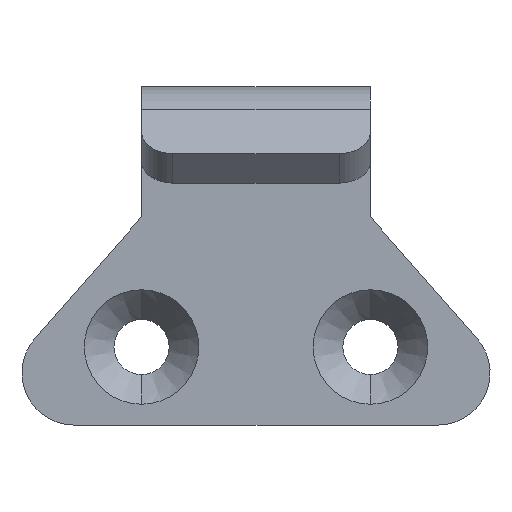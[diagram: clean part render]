
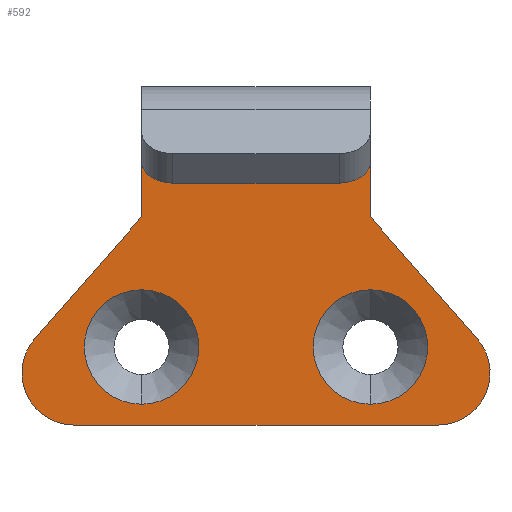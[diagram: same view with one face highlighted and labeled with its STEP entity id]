
A CAD part, top view. The second image highlights one B-rep face of the part: STEP entity #592.
In plain terms, the highlighted planar face has unit normal (0, 0, 1) as drawn and (0, 1, 0) by its records, which use the part's own axes.
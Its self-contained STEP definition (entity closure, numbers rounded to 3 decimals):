
#1 = CARTESIAN_POINT ( 'NONE',  ( 11.5, 0., -25. ) ) ;
#10 = DIRECTION ( 'NONE',  ( -1., 0., 0. ) ) ;
#17 = VERTEX_POINT ( 'NONE', #504 ) ;
#18 = CARTESIAN_POINT ( 'NONE',  ( 33.5, 0., -7.5 ) ) ;
#22 = CARTESIAN_POINT ( 'NONE',  ( 28.535, 0., -39.433 ) ) ;
#24 = PLANE ( 'NONE',  #62 ) ;
#29 = CARTESIAN_POINT ( 'NONE',  ( 11.5, 0., -25. ) ) ;
#39 = VERTEX_POINT ( 'NONE', #138 ) ;
#49 = FACE_BOUND ( 'NONE', #202, .T. ) ;
#60 = EDGE_CURVE ( 'NONE', #129, #39, #89, .T. ) ;
#62 = AXIS2_PLACEMENT_3D ( 'NONE', #586, #705, #93 ) ;
#66 = VERTEX_POINT ( 'NONE', #29 ) ;
#79 = EDGE_CURVE ( 'NONE', #39, #452, #155, .T. ) ;
#80 = AXIS2_PLACEMENT_3D ( 'NONE', #610, #170, #367 ) ;
#81 = EDGE_CURVE ( 'NONE', #452, #277, #382, .T. ) ;
#89 = LINE ( 'NONE', #289, #585 ) ;
#93 = DIRECTION ( 'NONE',  ( 0., 0., -1. ) ) ;
#96 = LINE ( 'NONE', #380, #740 ) ;
#101 = EDGE_CURVE ( 'NONE', #663, #254, #701, .T. ) ;
#103 = DIRECTION ( 'NONE',  ( 0., 0., 1. ) ) ;
#118 = AXIS2_PLACEMENT_3D ( 'NONE', #278, #652, #210 ) ;
#123 = VERTEX_POINT ( 'NONE', #647 ) ;
#129 = VERTEX_POINT ( 'NONE', #515 ) ;
#138 = CARTESIAN_POINT ( 'NONE',  ( 33.5, 0., -20. ) ) ;
#145 = DIRECTION ( 'NONE',  ( 0., 1., 0. ) ) ;
#148 = EDGE_LOOP ( 'NONE', ( #755, #496 ) ) ;
#150 = DIRECTION ( 'NONE',  ( 0.659, 0., 0.752 ) ) ;
#155 = LINE ( 'NONE', #526, #300 ) ;
#166 = ORIENTED_EDGE ( 'NONE', *, *, #101, .F. ) ;
#170 = DIRECTION ( 'NONE',  ( 0., 1., 0. ) ) ;
#175 = ORIENTED_EDGE ( 'NONE', *, *, #81, .F. ) ;
#178 = CARTESIAN_POINT ( 'NONE',  ( 40., 0., 0. ) ) ;
#189 = EDGE_CURVE ( 'NONE', #17, #123, #493, .T. ) ;
#198 = EDGE_CURVE ( 'NONE', #277, #785, #206, .T. ) ;
#199 = CIRCLE ( 'NONE', #235, 5. ) ;
#202 = EDGE_LOOP ( 'NONE', ( #678, #666 ) ) ;
#206 = LINE ( 'NONE', #460, #685 ) ;
#210 = DIRECTION ( 'NONE',  ( 0., 0., -1. ) ) ;
#224 = FACE_OUTER_BOUND ( 'NONE', #626, .T. ) ;
#235 = AXIS2_PLACEMENT_3D ( 'NONE', #328, #261, #634 ) ;
#254 = VERTEX_POINT ( 'NONE', #798 ) ;
#255 = DIRECTION ( 'NONE',  ( -1., 0., 0. ) ) ;
#256 = CARTESIAN_POINT ( 'NONE',  ( 11.5, 0., -7.5 ) ) ;
#257 = EDGE_CURVE ( 'NONE', #475, #645, #726, .T. ) ;
#261 = DIRECTION ( 'NONE',  ( 0., -1., 0. ) ) ;
#275 = VECTOR ( 'NONE', #545, 1000. ) ;
#277 = VERTEX_POINT ( 'NONE', #178 ) ;
#278 = CARTESIAN_POINT ( 'NONE',  ( 40., 0., -5. ) ) ;
#289 = CARTESIAN_POINT ( 'NONE',  ( 33.5, 0., -25. ) ) ;
#295 = LINE ( 'NONE', #1, #275 ) ;
#300 = VECTOR ( 'NONE', #150, 1000. ) ;
#302 = DIRECTION ( 'NONE',  ( 0., 1., 0. ) ) ;
#314 = FACE_BOUND ( 'NONE', #148, .T. ) ;
#328 = CARTESIAN_POINT ( 'NONE',  ( 5., 0., -5. ) ) ;
#335 = EDGE_CURVE ( 'NONE', #123, #17, #378, .T. ) ;
#343 = DIRECTION ( 'NONE',  ( 0.659, 0., -0.752 ) ) ;
#367 = DIRECTION ( 'NONE',  ( 0., 0., 1. ) ) ;
#368 = CARTESIAN_POINT ( 'NONE',  ( 11.5, 0., -7.5 ) ) ;
#378 = CIRCLE ( 'NONE', #80, 5.5 ) ;
#380 = CARTESIAN_POINT ( 'NONE',  ( 45., 0., -25. ) ) ;
#382 = CIRCLE ( 'NONE', #118, 5. ) ;
#407 = DIRECTION ( 'NONE',  ( 0., 0., 1. ) ) ;
#440 = CARTESIAN_POINT ( 'NONE',  ( 5., 0., 0. ) ) ;
#441 = AXIS2_PLACEMENT_3D ( 'NONE', #256, #302, #103 ) ;
#445 = CIRCLE ( 'NONE', #441, 5.5 ) ;
#450 = CARTESIAN_POINT ( 'NONE',  ( 1.24, 0., -8.296 ) ) ;
#452 = VERTEX_POINT ( 'NONE', #597 ) ;
#453 = CARTESIAN_POINT ( 'NONE',  ( 11.5, 0., -13. ) ) ;
#460 = CARTESIAN_POINT ( 'NONE',  ( 45., 0., 0. ) ) ;
#473 = AXIS2_PLACEMENT_3D ( 'NONE', #18, #145, #762 ) ;
#475 = VERTEX_POINT ( 'NONE', #660 ) ;
#493 = CIRCLE ( 'NONE', #473, 5.5 ) ;
#495 = ORIENTED_EDGE ( 'NONE', *, *, #79, .F. ) ;
#496 = ORIENTED_EDGE ( 'NONE', *, *, #687, .F. ) ;
#504 = CARTESIAN_POINT ( 'NONE',  ( 33.5, 0., -2. ) ) ;
#513 = ORIENTED_EDGE ( 'NONE', *, *, #671, .F. ) ;
#515 = CARTESIAN_POINT ( 'NONE',  ( 33.5, 0., -25. ) ) ;
#526 = CARTESIAN_POINT ( 'NONE',  ( 36.019, 0., -17.127 ) ) ;
#545 = DIRECTION ( 'NONE',  ( 0., 0., -1. ) ) ;
#558 = VECTOR ( 'NONE', #343, 1000. ) ;
#574 = ORIENTED_EDGE ( 'NONE', *, *, #60, .F. ) ;
#585 = VECTOR ( 'NONE', #407, 1000. ) ;
#586 = CARTESIAN_POINT ( 'NONE',  ( 45., 0., -25. ) ) ;
#592 = ADVANCED_FACE ( 'NONE', ( #314, #49, #224 ), #24, .F. ) ;
#597 = CARTESIAN_POINT ( 'NONE',  ( 43.76, 0., -8.296 ) ) ;
#610 = CARTESIAN_POINT ( 'NONE',  ( 33.5, 0., -7.5 ) ) ;
#611 = ORIENTED_EDGE ( 'NONE', *, *, #743, .F. ) ;
#626 = EDGE_LOOP ( 'NONE', ( #675, #175, #495, #574, #728, #611, #166, #513 ) ) ;
#634 = DIRECTION ( 'NONE',  ( 0., 0., -1. ) ) ;
#645 = VERTEX_POINT ( 'NONE', #453 ) ;
#647 = CARTESIAN_POINT ( 'NONE',  ( 33.5, 0., -13. ) ) ;
#652 = DIRECTION ( 'NONE',  ( 0., -1., 0. ) ) ;
#660 = CARTESIAN_POINT ( 'NONE',  ( 11.5, 0., -2. ) ) ;
#663 = VERTEX_POINT ( 'NONE', #450 ) ;
#666 = ORIENTED_EDGE ( 'NONE', *, *, #335, .F. ) ;
#671 = EDGE_CURVE ( 'NONE', #785, #663, #199, .T. ) ;
#672 = DIRECTION ( 'NONE',  ( 0., 0., 1. ) ) ;
#675 = ORIENTED_EDGE ( 'NONE', *, *, #198, .F. ) ;
#676 = AXIS2_PLACEMENT_3D ( 'NONE', #368, #733, #672 ) ;
#678 = ORIENTED_EDGE ( 'NONE', *, *, #189, .F. ) ;
#685 = VECTOR ( 'NONE', #10, 1000. ) ;
#687 = EDGE_CURVE ( 'NONE', #645, #475, #445, .T. ) ;
#701 = LINE ( 'NONE', #22, #558 ) ;
#705 = DIRECTION ( 'NONE',  ( 0., -1., 0. ) ) ;
#726 = CIRCLE ( 'NONE', #676, 5.5 ) ;
#728 = ORIENTED_EDGE ( 'NONE', *, *, #768, .T. ) ;
#733 = DIRECTION ( 'NONE',  ( 0., 1., 0. ) ) ;
#740 = VECTOR ( 'NONE', #255, 1000. ) ;
#743 = EDGE_CURVE ( 'NONE', #254, #66, #295, .T. ) ;
#755 = ORIENTED_EDGE ( 'NONE', *, *, #257, .F. ) ;
#762 = DIRECTION ( 'NONE',  ( 0., 0., 1. ) ) ;
#768 = EDGE_CURVE ( 'NONE', #129, #66, #96, .T. ) ;
#785 = VERTEX_POINT ( 'NONE', #440 ) ;
#798 = CARTESIAN_POINT ( 'NONE',  ( 11.5, 0., -20. ) ) ;
